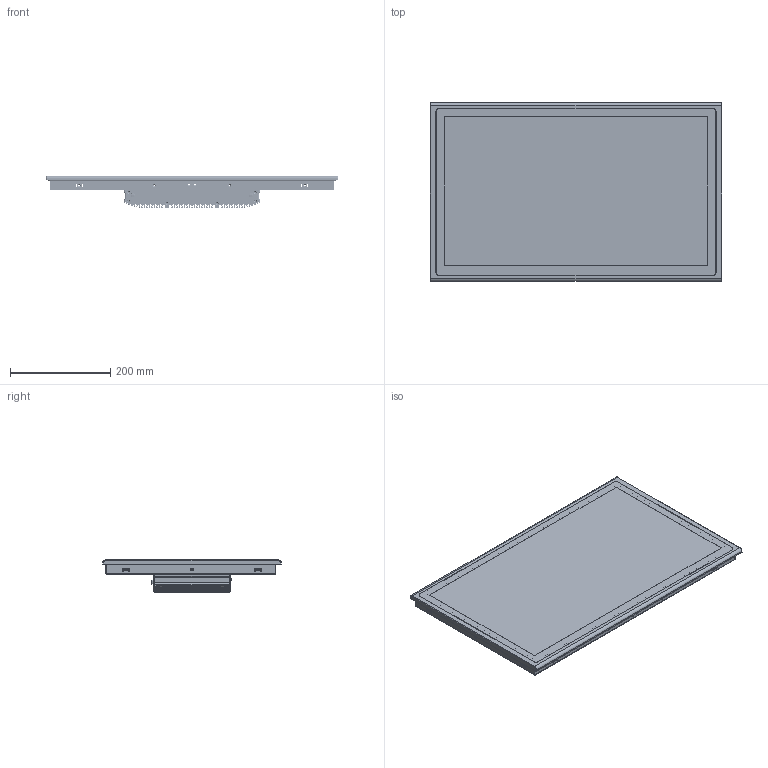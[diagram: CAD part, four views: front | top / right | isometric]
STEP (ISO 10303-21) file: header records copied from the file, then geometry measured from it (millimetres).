
FILE_DESCRIPTION((''),'2;1');
FILE_NAME('FPM-2308-20250227','2025-08-02T23:11:18',('anthony'),(''),'CREO PARAMETRIC BY PTC INC, 2024063','CREO PARAMETRIC BY PTC INC, 2024063','');
FILE_SCHEMA(('CONFIG_CONTROL_DESIGN','SHAPE_APPEARANCE_LAYERS_GROUPS'));
Products named in the file (1): FPM-2308-20250227
Bounding box: 581.9 x 356.9 x 64.08 mm (x, y, z)
Volume: 1836527.2 mm3; surface area: 1680461.7 mm2
Topology: 29 solids, 84 shells, 6735 faces, 21069 edges, 14460 vertices
Faces by surface type: plane 3797, cylinder 2514, cone 181, torus 138, bspline 95, sphere 6, revolution 4
Entity records: 293916 total; most frequent: CARTESIAN_POINT 57049, ORIENTED_EDGE 41610, DIRECTION 38404, EDGE_CURVE 20983, VERTEX_POINT 14458, PRESENTATION_STYLE_ASSIGNMENT 14276, STYLED_ITEM 13911, CURVE_STYLE 13298
